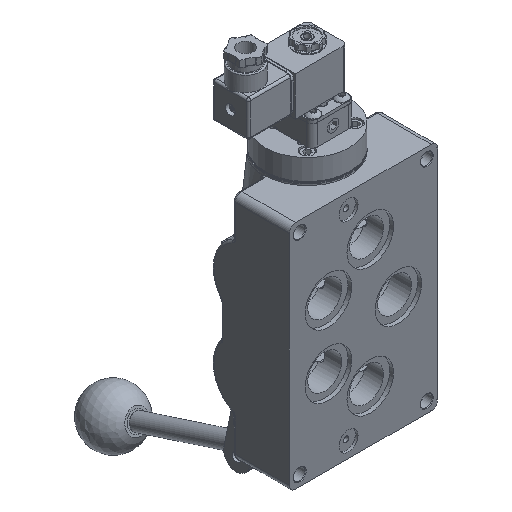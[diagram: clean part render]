
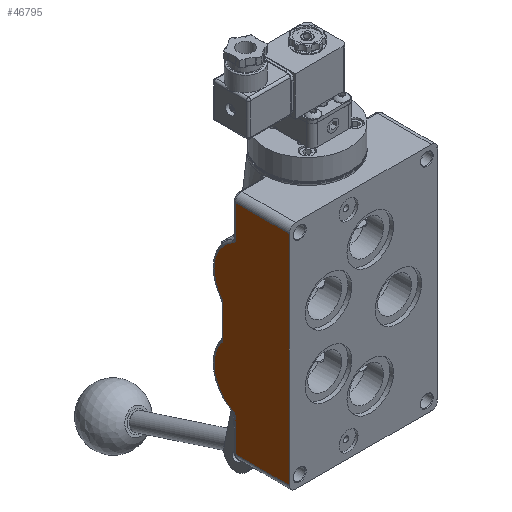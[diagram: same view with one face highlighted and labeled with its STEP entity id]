
A CAD part, isometric view. The second image highlights one B-rep face of the part: STEP entity #46795.
In plain terms, the highlighted planar face has unit normal (-1, 0, 0).
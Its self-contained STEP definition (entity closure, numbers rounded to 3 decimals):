
#1661=PLANE('',#51069);
#5311=FACE_OUTER_BOUND('',#8117,.T.);
#8117=EDGE_LOOP('',(#37516,#37517,#37518,#37519,#37520,#37521,#37522,#37523,
#37524,#37525,#37526,#37527));
#10431=CIRCLE('',#50434,0.318);
#10433=CIRCLE('',#50437,2.699);
#10435=CIRCLE('',#50440,0.476);
#10438=CIRCLE('',#50445,0.476);
#10440=CIRCLE('',#50448,2.699);
#10442=CIRCLE('',#50451,0.318);
#13543=LINE('',#92671,#16418);
#13544=LINE('',#92687,#16419);
#13545=LINE('',#92703,#16420);
#13724=LINE('',#98184,#16599);
#13725=LINE('',#98187,#16600);
#13726=LINE('',#98188,#16601);
#16418=VECTOR('',#60094,1.);
#16419=VECTOR('',#60117,1.);
#16420=VECTOR('',#60140,1.);
#16599=VECTOR('',#61549,1.);
#16600=VECTOR('',#61552,1.);
#16601=VECTOR('',#61553,1.);
#20007=VERTEX_POINT('',#92665);
#20008=VERTEX_POINT('',#92669);
#20009=VERTEX_POINT('',#92673);
#20010=VERTEX_POINT('',#92677);
#20011=VERTEX_POINT('',#92681);
#20012=VERTEX_POINT('',#92685);
#20013=VERTEX_POINT('',#92689);
#20014=VERTEX_POINT('',#92693);
#20015=VERTEX_POINT('',#92697);
#20016=VERTEX_POINT('',#92701);
#20500=VERTEX_POINT('',#98182);
#20501=VERTEX_POINT('',#98186);
#25633=EDGE_CURVE('',#20008,#20007,#13543,.T.);
#25635=EDGE_CURVE('',#20009,#20008,#10431,.T.);
#25637=EDGE_CURVE('',#20010,#20009,#10433,.T.);
#25639=EDGE_CURVE('',#20011,#20010,#10435,.T.);
#25641=EDGE_CURVE('',#20012,#20011,#13544,.T.);
#25643=EDGE_CURVE('',#20013,#20012,#10438,.T.);
#25645=EDGE_CURVE('',#20014,#20013,#10440,.T.);
#25647=EDGE_CURVE('',#20015,#20014,#10442,.T.);
#25649=EDGE_CURVE('',#20016,#20015,#13545,.T.);
#26485=EDGE_CURVE('',#20007,#20500,#13724,.T.);
#26486=EDGE_CURVE('',#20500,#20501,#13725,.T.);
#26487=EDGE_CURVE('',#20501,#20016,#13726,.T.);
#37516=ORIENTED_EDGE('',*,*,#26486,.F.);
#37517=ORIENTED_EDGE('',*,*,#26485,.F.);
#37518=ORIENTED_EDGE('',*,*,#25633,.F.);
#37519=ORIENTED_EDGE('',*,*,#25635,.F.);
#37520=ORIENTED_EDGE('',*,*,#25637,.F.);
#37521=ORIENTED_EDGE('',*,*,#25639,.F.);
#37522=ORIENTED_EDGE('',*,*,#25641,.F.);
#37523=ORIENTED_EDGE('',*,*,#25643,.F.);
#37524=ORIENTED_EDGE('',*,*,#25645,.F.);
#37525=ORIENTED_EDGE('',*,*,#25647,.F.);
#37526=ORIENTED_EDGE('',*,*,#25649,.F.);
#37527=ORIENTED_EDGE('',*,*,#26487,.F.);
#46795=ADVANCED_FACE('',(#5311),#1661,.F.);
#50434=AXIS2_PLACEMENT_3D('',#92675,#60099,#60100);
#50437=AXIS2_PLACEMENT_3D('',#92679,#60105,#60106);
#50440=AXIS2_PLACEMENT_3D('',#92683,#60111,#60112);
#50445=AXIS2_PLACEMENT_3D('',#92691,#60122,#60123);
#50448=AXIS2_PLACEMENT_3D('',#92695,#60128,#60129);
#50451=AXIS2_PLACEMENT_3D('',#92699,#60134,#60135);
#51069=AXIS2_PLACEMENT_3D('',#98185,#61550,#61551);
#60094=DIRECTION('',(0.,0.,1.));
#60099=DIRECTION('center_axis',(-1.,0.,0.));
#60100=DIRECTION('ref_axis',(0.,-0.858,-0.513));
#60105=DIRECTION('center_axis',(1.,0.,0.));
#60106=DIRECTION('ref_axis',(0.,0.978,0.209));
#60111=DIRECTION('center_axis',(-1.,0.,0.));
#60112=DIRECTION('ref_axis',(0.,-0.947,0.322));
#60117=DIRECTION('',(0.,0.,1.));
#60122=DIRECTION('center_axis',(-1.,0.,0.));
#60123=DIRECTION('ref_axis',(0.,-0.947,-0.322));
#60128=DIRECTION('center_axis',(1.,0.,0.));
#60129=DIRECTION('ref_axis',(0.,0.978,-0.209));
#60134=DIRECTION('center_axis',(-1.,0.,0.));
#60135=DIRECTION('ref_axis',(0.,-0.858,0.513));
#60140=DIRECTION('',(0.,0.,1.));
#61549=DIRECTION('',(0.,-1.,0.));
#61550=DIRECTION('center_axis',(1.,0.,0.));
#61551=DIRECTION('ref_axis',(0.,0.,-1.));
#61552=DIRECTION('',(0.,0.,-1.));
#61553=DIRECTION('',(0.,1.,0.));
#92665=CARTESIAN_POINT('',(-5.556,-0.159,8.176));
#92669=CARTESIAN_POINT('',(-5.556,-0.159,5.752));
#92671=CARTESIAN_POINT('',(-5.556,-0.159,4.326));
#92673=CARTESIAN_POINT('',(-5.556,0.008,5.472));
#92675=CARTESIAN_POINT('Origin',(-5.556,0.159,5.752));
#92677=CARTESIAN_POINT('',(-5.556,0.868,1.449));
#92679=CARTESIAN_POINT('Origin',(-5.556,-1.27,3.096));
#92681=CARTESIAN_POINT('',(-5.556,0.77,1.159));
#92683=CARTESIAN_POINT('Origin',(-5.556,1.246,1.159));
#92685=CARTESIAN_POINT('',(-5.556,0.77,-1.159));
#92687=CARTESIAN_POINT('',(-5.556,0.77,0.635));
#92689=CARTESIAN_POINT('',(-5.556,0.868,-1.449));
#92691=CARTESIAN_POINT('Origin',(-5.556,1.246,-1.159));
#92693=CARTESIAN_POINT('',(-5.556,0.008,-5.472));
#92695=CARTESIAN_POINT('Origin',(-5.556,-1.27,-3.096));
#92697=CARTESIAN_POINT('',(-5.556,-0.159,-5.752));
#92699=CARTESIAN_POINT('Origin',(-5.556,0.159,-5.752));
#92701=CARTESIAN_POINT('',(-5.556,-0.159,-8.176));
#92703=CARTESIAN_POINT('',(-5.556,-0.159,4.326));
#98182=CARTESIAN_POINT('',(-5.556,-4.206,8.176));
#98184=CARTESIAN_POINT('',(-5.556,-3.215,8.176));
#98185=CARTESIAN_POINT('Origin',(-5.556,-2.143,0.));
#98186=CARTESIAN_POINT('',(-5.556,-4.206,-8.176));
#98187=CARTESIAN_POINT('',(-5.556,-4.206,-4.411));
#98188=CARTESIAN_POINT('',(-5.556,-1.072,-8.176));
